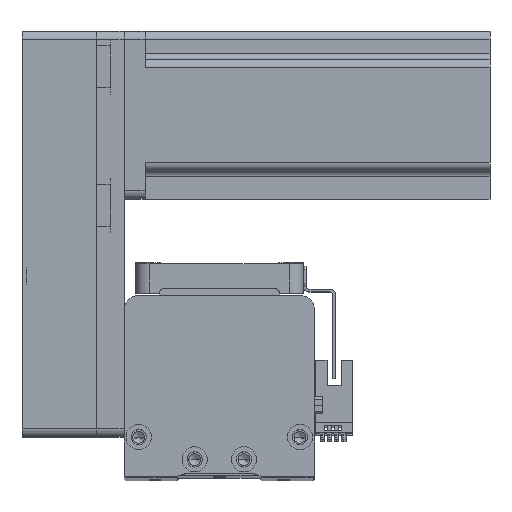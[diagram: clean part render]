
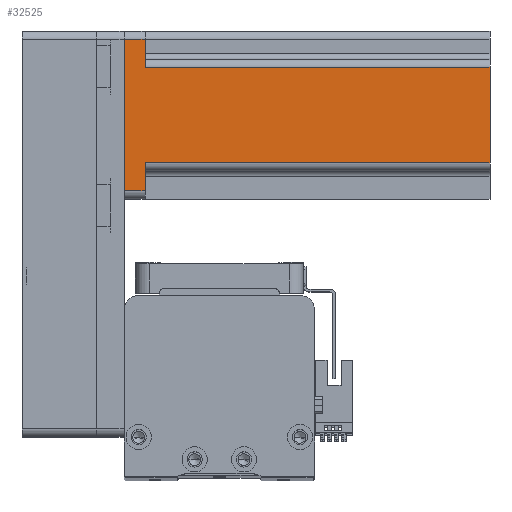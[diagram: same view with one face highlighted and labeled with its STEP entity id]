
A CAD part, top view. The second image highlights one B-rep face of the part: STEP entity #32525.
In plain terms, the highlighted planar face has unit normal (0, 0, 1) as drawn and (0, 1, 0) by its records, which use the part's own axes.
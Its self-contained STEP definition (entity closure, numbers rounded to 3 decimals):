
#235 = FACE_OUTER_BOUND ( 'NONE', #44757, .T. ) ;
#872 = EDGE_CURVE ( 'NONE', #7957, #42877, #39063, .T. ) ;
#1225 = CARTESIAN_POINT ( 'NONE',  ( 20., 30., 7.5 ) ) ;
#1904 = CARTESIAN_POINT ( 'NONE',  ( 17., 30., 130.7 ) ) ;
#3194 = VECTOR ( 'NONE', #12318, 1000. ) ;
#3302 = CARTESIAN_POINT ( 'NONE',  ( -27., 30., 7.5 ) ) ;
#4121 = CARTESIAN_POINT ( 'NONE',  ( 30., 30., 130.7 ) ) ;
#4237 = DIRECTION ( 'NONE',  ( 0., 0., 1. ) ) ;
#4483 = LINE ( 'NONE', #1904, #39261 ) ;
#4703 = CARTESIAN_POINT ( 'NONE',  ( 17., 30., 7.5 ) ) ;
#5123 = VECTOR ( 'NONE', #44965, 1000. ) ;
#5483 = VECTOR ( 'NONE', #11519, 1000. ) ;
#5819 = ORIENTED_EDGE ( 'NONE', *, *, #9171, .T. ) ;
#6087 = CARTESIAN_POINT ( 'NONE',  ( 27., 30., 7.5 ) ) ;
#6960 = VECTOR ( 'NONE', #29356, 1000. ) ;
#7421 = ORIENTED_EDGE ( 'NONE', *, *, #21505, .T. ) ;
#7607 = DIRECTION ( 'NONE',  ( 1., 0., 0. ) ) ;
#7740 = CARTESIAN_POINT ( 'NONE',  ( -17., 30., 130.7 ) ) ;
#7957 = VERTEX_POINT ( 'NONE', #19724 ) ;
#8102 = VERTEX_POINT ( 'NONE', #20929 ) ;
#9171 = EDGE_CURVE ( 'NONE', #8102, #34771, #25825, .T. ) ;
#9260 = ORIENTED_EDGE ( 'NONE', *, *, #872, .T. ) ;
#9544 = ORIENTED_EDGE ( 'NONE', *, *, #31964, .T. ) ;
#9796 = ORIENTED_EDGE ( 'NONE', *, *, #42552, .T. ) ;
#11324 = VERTEX_POINT ( 'NONE', #4703 ) ;
#11519 = DIRECTION ( 'NONE',  ( -1., 0., 0. ) ) ;
#11692 = LINE ( 'NONE', #38064, #38343 ) ;
#12318 = DIRECTION ( 'NONE',  ( 0., 0., 1. ) ) ;
#13220 = EDGE_CURVE ( 'NONE', #24299, #11324, #22904, .T. ) ;
#19724 = CARTESIAN_POINT ( 'NONE',  ( -27., 30., 0. ) ) ;
#20683 = CARTESIAN_POINT ( 'NONE',  ( 30., 30., 130.7 ) ) ;
#20929 = CARTESIAN_POINT ( 'NONE',  ( -17., 30., 7.5 ) ) ;
#21483 = CARTESIAN_POINT ( 'NONE',  ( 17., 30., 130.7 ) ) ;
#21505 = EDGE_CURVE ( 'NONE', #30255, #11324, #4483, .T. ) ;
#22682 = EDGE_CURVE ( 'NONE', #29919, #7957, #26582, .T. ) ;
#22904 = LINE ( 'NONE', #1225, #5483 ) ;
#23661 = LINE ( 'NONE', #20683, #5123 ) ;
#24299 = VERTEX_POINT ( 'NONE', #6087 ) ;
#25825 = LINE ( 'NONE', #7740, #32858 ) ;
#25860 = CARTESIAN_POINT ( 'NONE',  ( -20., 30., 7.5 ) ) ;
#26009 = DIRECTION ( 'NONE',  ( -1., 0., 0. ) ) ;
#26582 = LINE ( 'NONE', #43269, #42833 ) ;
#28462 = DIRECTION ( 'NONE',  ( 0., -1., 0. ) ) ;
#29038 = ORIENTED_EDGE ( 'NONE', *, *, #36767, .F. ) ;
#29356 = DIRECTION ( 'NONE',  ( 1., 0., 0. ) ) ;
#29919 = VERTEX_POINT ( 'NONE', #44137 ) ;
#30255 = VERTEX_POINT ( 'NONE', #21483 ) ;
#31964 = EDGE_CURVE ( 'NONE', #24299, #29919, #11692, .T. ) ;
#32525 = ADVANCED_FACE ( 'NONE', ( #235 ), #35286, .F. ) ;
#32858 = VECTOR ( 'NONE', #4237, 1000. ) ;
#33051 = DIRECTION ( 'NONE',  ( 0., 0., -1. ) ) ;
#33889 = CARTESIAN_POINT ( 'NONE',  ( -17., 30., 130.7 ) ) ;
#34705 = LINE ( 'NONE', #25860, #6960 ) ;
#34771 = VERTEX_POINT ( 'NONE', #33889 ) ;
#35286 = PLANE ( 'NONE',  #39262 ) ;
#36645 = CARTESIAN_POINT ( 'NONE',  ( -27., 30., 130.7 ) ) ;
#36767 = EDGE_CURVE ( 'NONE', #30255, #34771, #23661, .T. ) ;
#38064 = CARTESIAN_POINT ( 'NONE',  ( 27., 30., 130.7 ) ) ;
#38254 = ORIENTED_EDGE ( 'NONE', *, *, #22682, .T. ) ;
#38343 = VECTOR ( 'NONE', #41527, 1000. ) ;
#39063 = LINE ( 'NONE', #36645, #3194 ) ;
#39261 = VECTOR ( 'NONE', #33051, 1000. ) ;
#39262 = AXIS2_PLACEMENT_3D ( 'NONE', #4121, #28462, #7607 ) ;
#39618 = ORIENTED_EDGE ( 'NONE', *, *, #13220, .F. ) ;
#41527 = DIRECTION ( 'NONE',  ( 0., 0., -1. ) ) ;
#42552 = EDGE_CURVE ( 'NONE', #42877, #8102, #34705, .T. ) ;
#42833 = VECTOR ( 'NONE', #26009, 1000. ) ;
#42877 = VERTEX_POINT ( 'NONE', #3302 ) ;
#43269 = CARTESIAN_POINT ( 'NONE',  ( 30., 30., 0. ) ) ;
#44137 = CARTESIAN_POINT ( 'NONE',  ( 27., 30., 0. ) ) ;
#44757 = EDGE_LOOP ( 'NONE', ( #9796, #5819, #29038, #7421, #39618, #9544, #38254, #9260 ) ) ;
#44965 = DIRECTION ( 'NONE',  ( -1., 0., 0. ) ) ;
